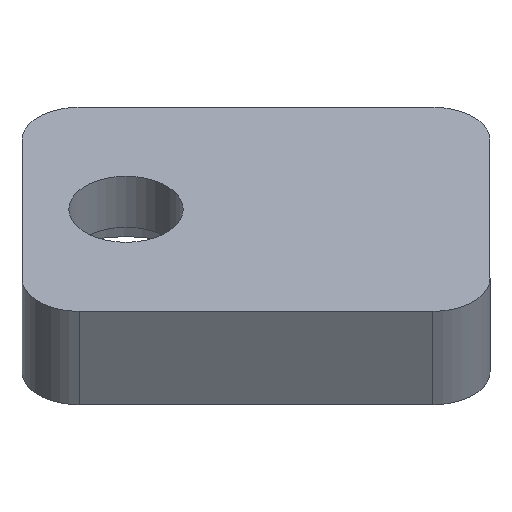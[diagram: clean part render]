
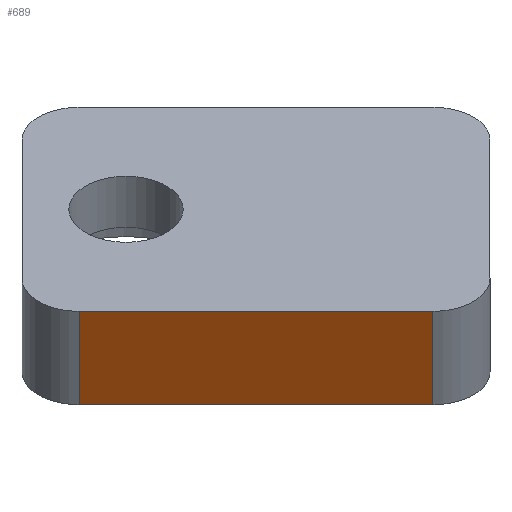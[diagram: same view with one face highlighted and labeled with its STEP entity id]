
A CAD part, isometric view. The second image highlights one B-rep face of the part: STEP entity #689.
In plain terms, the highlighted planar face has unit normal (-0.707, -0.707, 0).
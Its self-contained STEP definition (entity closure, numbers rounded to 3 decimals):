
#72 = PLANE('',#73);
#73 = AXIS2_PLACEMENT_3D('',#74,#75,#76);
#74 = CARTESIAN_POINT('',(-18.95,60.95,-4.95));
#75 = DIRECTION('',(0.,0.,1.));
#76 = DIRECTION('',(-0.707,0.707,0.));
#100 = CYLINDRICAL_SURFACE('',#101,1.1);
#101 = AXIS2_PLACEMENT_3D('',#102,#103,#104);
#102 = CARTESIAN_POINT('',(-18.173,56.92,-7.15));
#103 = DIRECTION('',(0.,0.,-1.));
#104 = DIRECTION('',(-0.707,0.707,0.));
#126 = PLANE('',#127);
#127 = AXIS2_PLACEMENT_3D('',#128,#129,#130);
#128 = CARTESIAN_POINT('',(-18.95,60.95,-7.15));
#129 = DIRECTION('',(0.,0.,1.));
#130 = DIRECTION('',(-0.707,0.707,0.));
#219 = EDGE_CURVE('',#220,#222,#224,.T.);
#220 = VERTEX_POINT('',#221);
#221 = CARTESIAN_POINT('',(-18.95,56.142,-7.15));
#222 = VERTEX_POINT('',#223);
#223 = CARTESIAN_POINT('',(-18.95,56.142,-4.95));
#224 = SURFACE_CURVE('',#225,(#229,#236),.PCURVE_S1.);
#225 = LINE('',#226,#227);
#226 = CARTESIAN_POINT('',(-18.95,56.142,-7.15));
#227 = VECTOR('',#228,1.);
#228 = DIRECTION('',(0.,0.,1.));
#229 = PCURVE('',#100,#230);
#230 = DEFINITIONAL_REPRESENTATION('',(#231),#235);
#231 = LINE('',#232,#233);
#232 = CARTESIAN_POINT('',(-1.571,0.));
#233 = VECTOR('',#234,1.);
#234 = DIRECTION('',(-0.,-1.));
#235 = ( GEOMETRIC_REPRESENTATION_CONTEXT(2) 
PARAMETRIC_REPRESENTATION_CONTEXT() REPRESENTATION_CONTEXT('2D SPACE',''
  ) );
#236 = PCURVE('',#237,#242);
#237 = PLANE('',#238);
#238 = AXIS2_PLACEMENT_3D('',#239,#240,#241);
#239 = CARTESIAN_POINT('',(-18.95,56.142,-7.15));
#240 = DIRECTION('',(-0.707,-0.707,0.));
#241 = DIRECTION('',(-0.707,0.707,0.));
#242 = DEFINITIONAL_REPRESENTATION('',(#243),#247);
#243 = LINE('',#244,#245);
#244 = CARTESIAN_POINT('',(0.,0.));
#245 = VECTOR('',#246,1.);
#246 = DIRECTION('',(0.,-1.));
#247 = ( GEOMETRIC_REPRESENTATION_CONTEXT(2) 
PARAMETRIC_REPRESENTATION_CONTEXT() REPRESENTATION_CONTEXT('2D SPACE',''
  ) );
#461 = VERTEX_POINT('',#462);
#462 = CARTESIAN_POINT('',(-23.759,60.95,-7.15));
#477 = CYLINDRICAL_SURFACE('',#478,1.1);
#478 = AXIS2_PLACEMENT_3D('',#479,#480,#481);
#479 = CARTESIAN_POINT('',(-22.981,61.728,-7.15));
#480 = DIRECTION('',(0.,0.,-1.));
#481 = DIRECTION('',(-0.707,0.707,0.));
#489 = EDGE_CURVE('',#220,#461,#490,.T.);
#490 = SURFACE_CURVE('',#491,(#495,#502),.PCURVE_S1.);
#491 = LINE('',#492,#493);
#492 = CARTESIAN_POINT('',(-21.355,58.546,-7.15));
#493 = VECTOR('',#494,1.);
#494 = DIRECTION('',(-0.707,0.707,0.));
#495 = PCURVE('',#126,#496);
#496 = DEFINITIONAL_REPRESENTATION('',(#497),#501);
#497 = LINE('',#498,#499);
#498 = CARTESIAN_POINT('',(0.,3.4));
#499 = VECTOR('',#500,1.);
#500 = DIRECTION('',(1.,0.));
#501 = ( GEOMETRIC_REPRESENTATION_CONTEXT(2) 
PARAMETRIC_REPRESENTATION_CONTEXT() REPRESENTATION_CONTEXT('2D SPACE',''
  ) );
#502 = PCURVE('',#237,#503);
#503 = DEFINITIONAL_REPRESENTATION('',(#504),#508);
#504 = LINE('',#505,#506);
#505 = CARTESIAN_POINT('',(3.4,0.));
#506 = VECTOR('',#507,1.);
#507 = DIRECTION('',(1.,0.));
#508 = ( GEOMETRIC_REPRESENTATION_CONTEXT(2) 
PARAMETRIC_REPRESENTATION_CONTEXT() REPRESENTATION_CONTEXT('2D SPACE',''
  ) );
#587 = VERTEX_POINT('',#588);
#588 = CARTESIAN_POINT('',(-23.759,60.95,-4.95));
#610 = EDGE_CURVE('',#222,#587,#611,.T.);
#611 = SURFACE_CURVE('',#612,(#616,#623),.PCURVE_S1.);
#612 = LINE('',#613,#614);
#613 = CARTESIAN_POINT('',(-21.355,58.546,-4.95));
#614 = VECTOR('',#615,1.);
#615 = DIRECTION('',(-0.707,0.707,0.));
#616 = PCURVE('',#72,#617);
#617 = DEFINITIONAL_REPRESENTATION('',(#618),#622);
#618 = LINE('',#619,#620);
#619 = CARTESIAN_POINT('',(0.,3.4));
#620 = VECTOR('',#621,1.);
#621 = DIRECTION('',(1.,0.));
#622 = ( GEOMETRIC_REPRESENTATION_CONTEXT(2) 
PARAMETRIC_REPRESENTATION_CONTEXT() REPRESENTATION_CONTEXT('2D SPACE',''
  ) );
#623 = PCURVE('',#237,#624);
#624 = DEFINITIONAL_REPRESENTATION('',(#625),#629);
#625 = LINE('',#626,#627);
#626 = CARTESIAN_POINT('',(3.4,-2.2));
#627 = VECTOR('',#628,1.);
#628 = DIRECTION('',(1.,0.));
#629 = ( GEOMETRIC_REPRESENTATION_CONTEXT(2) 
PARAMETRIC_REPRESENTATION_CONTEXT() REPRESENTATION_CONTEXT('2D SPACE',''
  ) );
#689 = ADVANCED_FACE('',(#690),#237,.T.);
#690 = FACE_BOUND('',#691,.T.);
#691 = EDGE_LOOP('',(#692,#693,#694,#715));
#692 = ORIENTED_EDGE('',*,*,#219,.T.);
#693 = ORIENTED_EDGE('',*,*,#610,.T.);
#694 = ORIENTED_EDGE('',*,*,#695,.F.);
#695 = EDGE_CURVE('',#461,#587,#696,.T.);
#696 = SURFACE_CURVE('',#697,(#701,#708),.PCURVE_S1.);
#697 = LINE('',#698,#699);
#698 = CARTESIAN_POINT('',(-23.759,60.95,-7.15));
#699 = VECTOR('',#700,1.);
#700 = DIRECTION('',(0.,0.,1.));
#701 = PCURVE('',#237,#702);
#702 = DEFINITIONAL_REPRESENTATION('',(#703),#707);
#703 = LINE('',#704,#705);
#704 = CARTESIAN_POINT('',(6.8,0.));
#705 = VECTOR('',#706,1.);
#706 = DIRECTION('',(0.,-1.));
#707 = ( GEOMETRIC_REPRESENTATION_CONTEXT(2) 
PARAMETRIC_REPRESENTATION_CONTEXT() REPRESENTATION_CONTEXT('2D SPACE',''
  ) );
#708 = PCURVE('',#477,#709);
#709 = DEFINITIONAL_REPRESENTATION('',(#710),#714);
#710 = LINE('',#711,#712);
#711 = CARTESIAN_POINT('',(-1.571,0.));
#712 = VECTOR('',#713,1.);
#713 = DIRECTION('',(-0.,-1.));
#714 = ( GEOMETRIC_REPRESENTATION_CONTEXT(2) 
PARAMETRIC_REPRESENTATION_CONTEXT() REPRESENTATION_CONTEXT('2D SPACE',''
  ) );
#715 = ORIENTED_EDGE('',*,*,#489,.F.);
